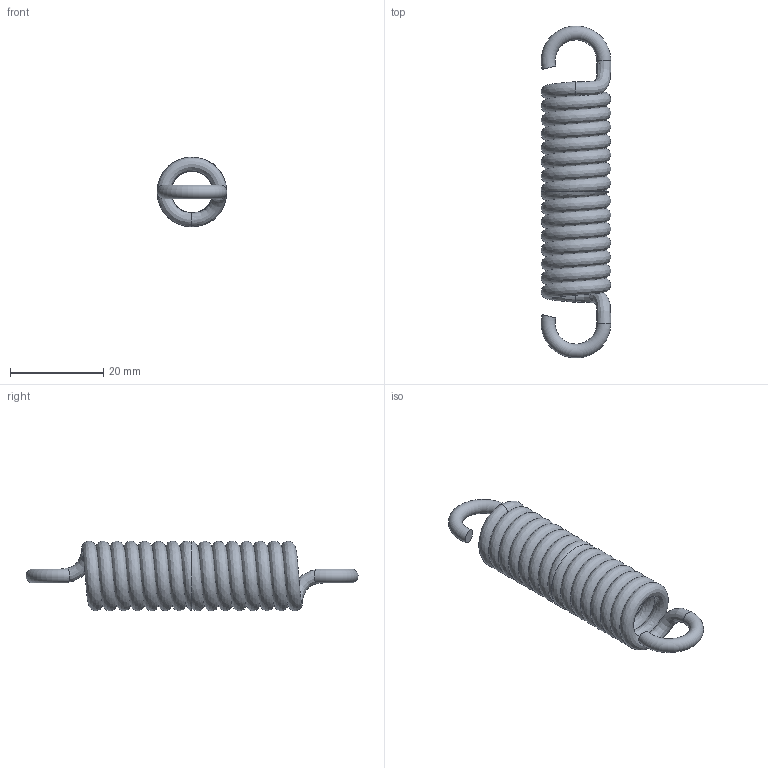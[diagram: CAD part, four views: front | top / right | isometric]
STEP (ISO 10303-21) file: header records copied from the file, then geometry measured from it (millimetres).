
FILE_DESCRIPTION(/* description */ ('455 | 29.85 | 0'),/* implementation_level */ '2;1');
FILE_NAME(/* name */ 'T120702.step',/* time_stamp */ '2026-10-05T10:00:34+02:00',/* author */ ('impex-ready.pl'),/* organization */ ('T120702'),/* preprocessor_version */ 'ST-DEVELOPER v20.1',/* originating_system */ 'Autodesk Inventor 2026',/* authorisation */ 'stal sprezynowa');
FILE_SCHEMA (('AUTOMOTIVE_DESIGN { 1 0 10303 214 3 1 1 }'));
Length unit declared in the file: millimetre
Products named in the file (1): T120702
Bounding box: 14.98 x 71.38 x 15 mm (x, y, z)
Volume: 4412.8 mm3; surface area: 5920.5 mm2
Topology: 1 solids, 1 shells, 10 faces, 34 edges, 22 vertices
Faces by surface type: plane 4, bspline 4, torus 2
Entity records: 3406 total; most frequent: CARTESIAN_POINT 3094, ORIENTED_EDGE 68, DIRECTION 42, EDGE_CURVE 34, VERTEX_POINT 22, AXIS2_PLACEMENT_3D 21, B_SPLINE_CURVE_WITH_KNOTS 20, CIRCLE 14
